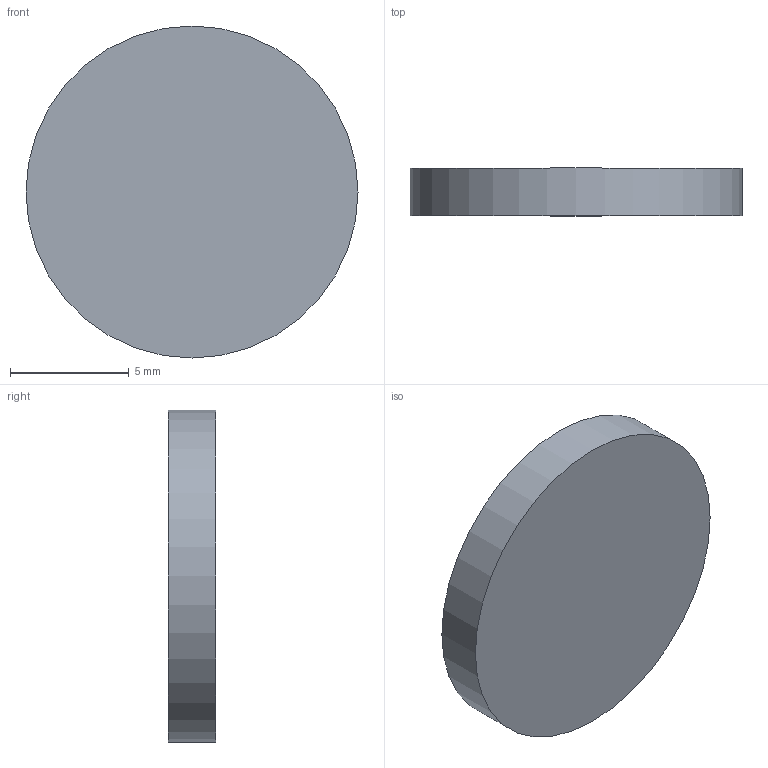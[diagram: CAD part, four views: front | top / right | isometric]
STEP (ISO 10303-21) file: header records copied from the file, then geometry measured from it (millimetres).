
FILE_DESCRIPTION(('Open CASCADE Model'),'2;1');
FILE_NAME('Open CASCADE Shape Model','2026-11-24T19:57:40',('Author'),( 'Open CASCADE'),'Open CASCADE STEP processor 7.8','Open CASCADE 7.8' ,'Unknown');
FILE_SCHEMA(('AUTOMOTIVE_DESIGN { 1 0 10303 214 1 1 1 1 }'));
Length unit declared in the file: millimetre
Products named in the file (1): Open CASCADE STEP translator 7.8 157
Bounding box: 14 x 2 x 14 mm (x, y, z)
Volume: 307.9 mm3; surface area: 395.8 mm2
Topology: 1 solids, 1 shells, 3 faces, 3 edges, 2 vertices
Faces by surface type: plane 2, cylinder 1
Full cylindrical faces by diameter (mm): 14 x1
Entity records: 107 total; most frequent: DIRECTION 18, CARTESIAN_POINT 16, AXIS2_PLACEMENT_3D 6, ORIENTED_EDGE 6, PCURVE 6, DEFINITIONAL_REPRESENTATION 6, CIRCLE 4, LINE 4
